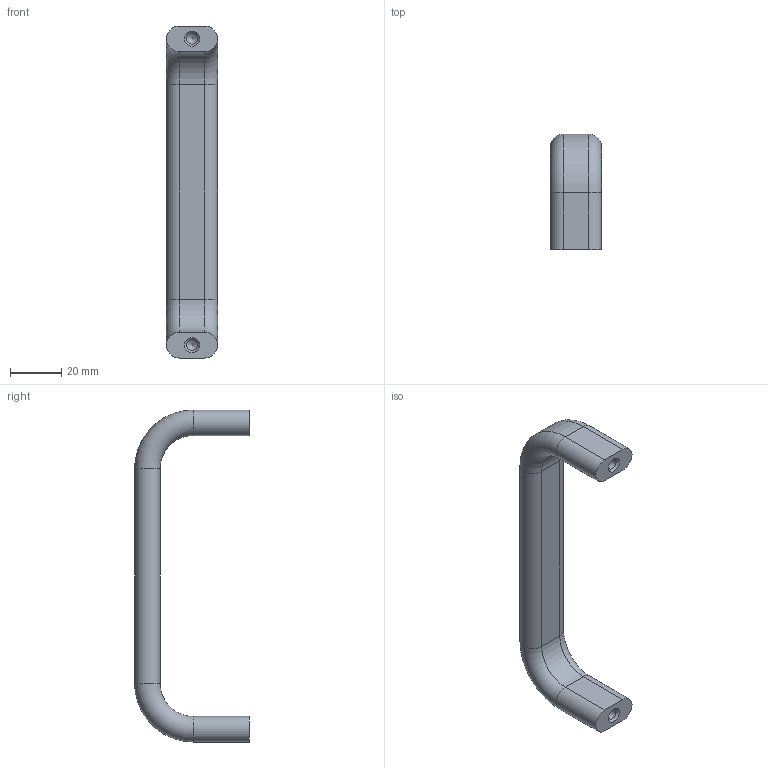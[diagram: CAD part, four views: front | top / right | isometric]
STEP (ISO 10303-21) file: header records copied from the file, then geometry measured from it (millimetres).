
FILE_DESCRIPTION (( 'STEP AP214' ), '1' );
FILE_NAME ('F31116.step', '2024-12-03T16:17:16', ( '' ), ( '' ), 'SwSTEP 2.0', 'SolidWorks 2023', '' );
FILE_SCHEMA (( 'AUTOMOTIVE_DESIGN' ));
Length unit declared in the file: millimetre
Products named in the file (1): F31116
Bounding box: 20 x 45 x 130 mm (x, y, z)
Volume: 32537.5 mm3; surface area: 10208.1 mm2
Topology: 1 solids, 1 shells, 28 faces, 58 edges, 32 vertices
Faces by surface type: cylinder 12, plane 8, torus 4, cone 4
Full cylindrical faces by diameter (mm): 4.2 x2
Entity records: 703 total; most frequent: DIRECTION 134, CARTESIAN_POINT 109, ORIENTED_EDGE 100, AXIS2_PLACEMENT_3D 55, EDGE_CURVE 50, EDGE_LOOP 34, VERTEX_POINT 30, FACE_OUTER_BOUND 30
